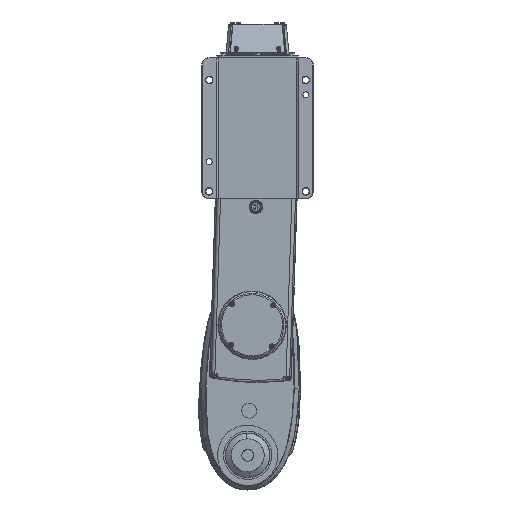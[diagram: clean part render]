
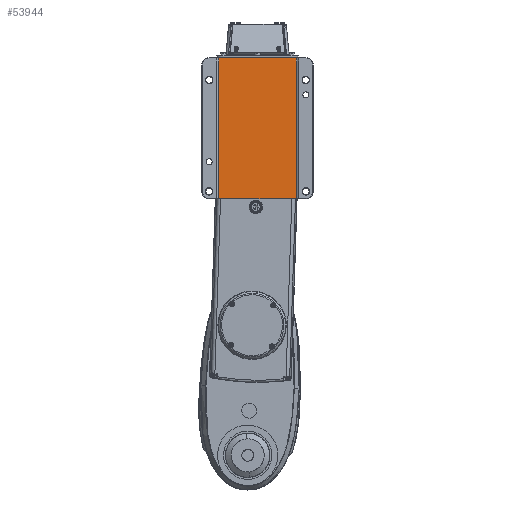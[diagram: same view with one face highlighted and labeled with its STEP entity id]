
A CAD part, front view. The second image highlights one B-rep face of the part: STEP entity #53944.
In plain terms, the highlighted planar face has unit normal (0, -1, 0).
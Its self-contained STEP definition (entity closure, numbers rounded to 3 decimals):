
#81 = CARTESIAN_POINT ( 'NONE',  ( 55., -12., 135. ) ) ;
#21833 = DIRECTION ( 'NONE',  ( 1., 0., 0. ) ) ;
#23279 = CARTESIAN_POINT ( 'NONE',  ( 52., -12., -54.5 ) ) ;
#33104 = VECTOR ( 'NONE', #308950, 1000. ) ;
#44946 = VERTEX_POINT ( 'NONE', #23279 ) ;
#53944 = ADVANCED_FACE ( 'NONE', ( #330822 ), #230492, .F. ) ;
#73390 = DIRECTION ( 'NONE',  ( 0., 0., 1. ) ) ;
#74369 = LINE ( 'NONE', #114732, #33104 ) ;
#88043 = CARTESIAN_POINT ( 'NONE',  ( -52., -12., 134.5 ) ) ;
#93460 = EDGE_LOOP ( 'NONE', ( #202493, #246127, #344829, #401938 ) ) ;
#96440 = VECTOR ( 'NONE', #21833, 1000. ) ;
#104553 = DIRECTION ( 'NONE',  ( 0., 0., 1. ) ) ;
#110784 = VECTOR ( 'NONE', #73390, 1000. ) ;
#114732 = CARTESIAN_POINT ( 'NONE',  ( 55., -12., -54.5 ) ) ;
#145093 = EDGE_CURVE ( 'NONE', #171570, #44946, #275630, .T. ) ;
#169309 = AXIS2_PLACEMENT_3D ( 'NONE', #81, #360681, #104553 ) ;
#171570 = VERTEX_POINT ( 'NONE', #391670 ) ;
#174217 = EDGE_CURVE ( 'NONE', #44946, #250349, #74369, .T. ) ;
#181675 = DIRECTION ( 'NONE',  ( 0., 0., -1. ) ) ;
#188817 = EDGE_CURVE ( 'NONE', #250349, #350035, #367778, .T. ) ;
#202493 = ORIENTED_EDGE ( 'NONE', *, *, #145093, .F. ) ;
#224904 = CARTESIAN_POINT ( 'NONE',  ( -52., -12., -54.5 ) ) ;
#227500 = EDGE_CURVE ( 'NONE', #350035, #171570, #346151, .T. ) ;
#230492 = PLANE ( 'NONE',  #169309 ) ;
#246127 = ORIENTED_EDGE ( 'NONE', *, *, #227500, .F. ) ;
#250349 = VERTEX_POINT ( 'NONE', #224904 ) ;
#275630 = LINE ( 'NONE', #311942, #351951 ) ;
#308950 = DIRECTION ( 'NONE',  ( -1., 0., 0. ) ) ;
#311942 = CARTESIAN_POINT ( 'NONE',  ( 52., -12., 135. ) ) ;
#314150 = CARTESIAN_POINT ( 'NONE',  ( 55., -12., 134.5 ) ) ;
#330822 = FACE_OUTER_BOUND ( 'NONE', #93460, .T. ) ;
#344829 = ORIENTED_EDGE ( 'NONE', *, *, #188817, .F. ) ;
#346151 = LINE ( 'NONE', #314150, #96440 ) ;
#350035 = VERTEX_POINT ( 'NONE', #88043 ) ;
#351951 = VECTOR ( 'NONE', #181675, 1000. ) ;
#360681 = DIRECTION ( 'NONE',  ( 0., 1., 0. ) ) ;
#365699 = CARTESIAN_POINT ( 'NONE',  ( -52., -12., 135. ) ) ;
#367778 = LINE ( 'NONE', #365699, #110784 ) ;
#391670 = CARTESIAN_POINT ( 'NONE',  ( 52., -12., 134.5 ) ) ;
#401938 = ORIENTED_EDGE ( 'NONE', *, *, #174217, .F. ) ;
